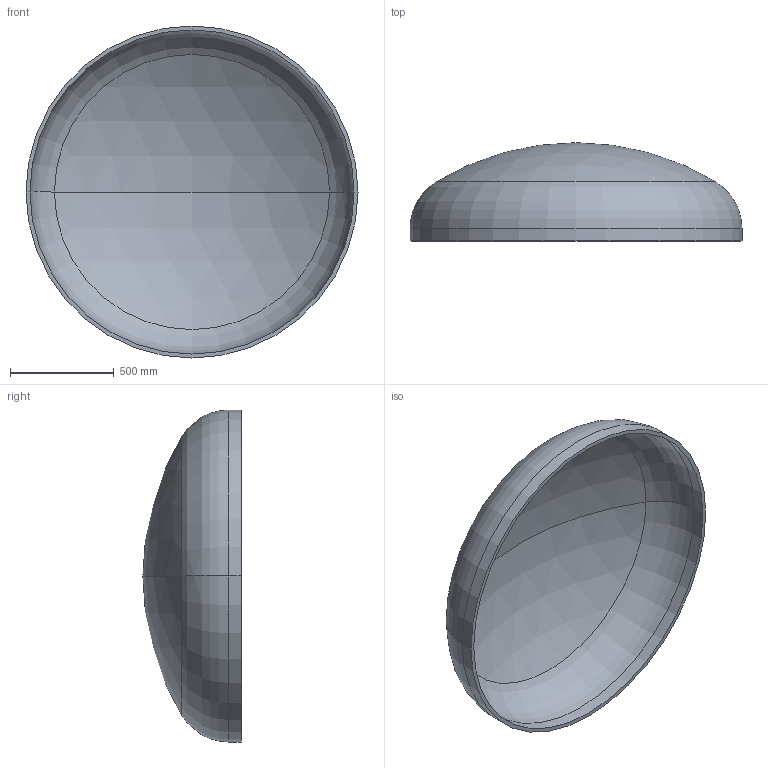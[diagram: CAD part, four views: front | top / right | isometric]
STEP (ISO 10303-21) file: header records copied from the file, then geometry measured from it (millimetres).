
FILE_DESCRIPTION (( 'STEP AP203' ), '1' );
FILE_NAME ('DIN 28013 Korbbogenform_-_Boden DIN 28013 - 1600 x 60 - I - s=19.step', '2016-07-01T11:07:54', ( '' ), ( '' ), 'SwSTEP 2.0', 'SolidWorks 2013', '' );
FILE_SCHEMA (( 'CONFIG_CONTROL_DESIGN' ));
Length unit declared in the file: millimetre
Products named in the file (1): DIN 28013 Korbbogenform_-_Boden DIN 28013 - 1600 x 60 - I - s=19
Bounding box: 1600 x 473.6 x 1600 mm (x, y, z)
Volume: 57688700 mm3; surface area: 6167618.9 mm2
Topology: 1 solids, 1 shells, 13 faces, 24 edges, 14 vertices
Faces by surface type: torus 4, cylinder 4, sphere 4, plane 1
Entity records: 407 total; most frequent: DIRECTION 72, CARTESIAN_POINT 52, ORIENTED_EDGE 48, AXIS2_PLACEMENT_3D 34, EDGE_CURVE 24, CIRCLE 20, VERTEX_POINT 14, EDGE_LOOP 14
